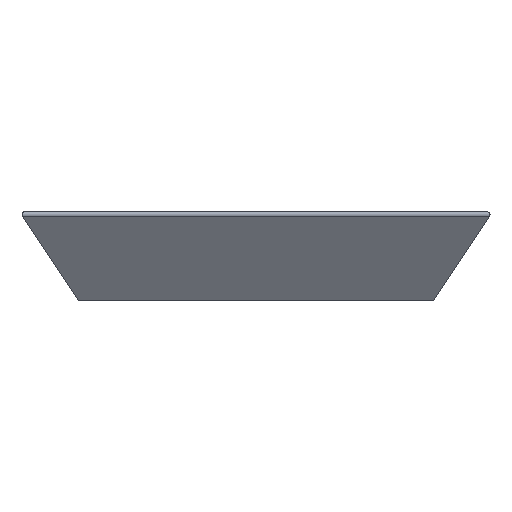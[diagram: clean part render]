
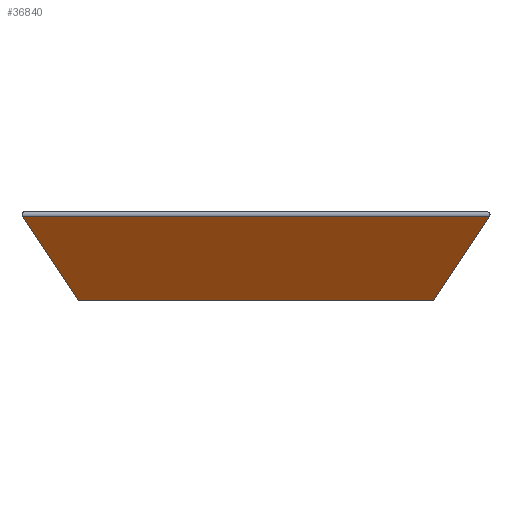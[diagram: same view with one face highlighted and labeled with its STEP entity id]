
A CAD part, front view. The second image highlights one B-rep face of the part: STEP entity #36840.
In plain terms, the highlighted planar face has unit normal (0, -0.832, -0.555).
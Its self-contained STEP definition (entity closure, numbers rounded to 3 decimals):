
#4284=FACE_OUTER_BOUND('',#6332,.T.);
#6332=EDGE_LOOP('',(#27320,#27321,#27322,#27323));
#8963=LINE('',#59970,#12288);
#8971=LINE('',#59993,#12296);
#8974=LINE('',#59999,#12299);
#8975=LINE('',#60000,#12300);
#12288=VECTOR('',#41057,10.);
#12296=VECTOR('',#41081,10.);
#12299=VECTOR('',#41086,10.);
#12300=VECTOR('',#41087,10.);
#15946=VERTEX_POINT('',#59968);
#15947=VERTEX_POINT('',#59969);
#15954=VERTEX_POINT('',#59992);
#15956=VERTEX_POINT('',#59998);
#20313=EDGE_CURVE('',#15946,#15947,#8963,.T.);
#20325=EDGE_CURVE('',#15954,#15947,#8971,.T.);
#20328=EDGE_CURVE('',#15956,#15946,#8974,.T.);
#20329=EDGE_CURVE('',#15954,#15956,#8975,.T.);
#27320=ORIENTED_EDGE('',*,*,#20313,.F.);
#27321=ORIENTED_EDGE('',*,*,#20328,.F.);
#27322=ORIENTED_EDGE('',*,*,#20329,.F.);
#27323=ORIENTED_EDGE('',*,*,#20325,.T.);
#35622=PLANE('',#38620);
#36840=ADVANCED_FACE('',(#4284),#35622,.F.);
#38620=AXIS2_PLACEMENT_3D('',#59997,#41084,#41085);
#41057=DIRECTION('',(1.,0.,0.));
#41081=DIRECTION('',(0.485,-0.485,0.728));
#41084=DIRECTION('center_axis',(0.,0.832,0.555));
#41085=DIRECTION('ref_axis',(1.,0.,0.));
#41086=DIRECTION('',(-0.485,-0.485,0.728));
#41087=DIRECTION('',(-1.,0.,0.));
#59968=CARTESIAN_POINT('',(-78.964,-78.964,28.445));
#59969=CARTESIAN_POINT('',(78.964,-78.964,28.445));
#59970=CARTESIAN_POINT('',(30.,-78.964,28.445));
#59992=CARTESIAN_POINT('',(60.,-60.,0.));
#59993=CARTESIAN_POINT('',(60.,-60.,0.));
#59997=CARTESIAN_POINT('Origin',(60.,-60.,0.));
#59998=CARTESIAN_POINT('',(-60.,-60.,0.));
#59999=CARTESIAN_POINT('',(-60.,-60.,0.));
#60000=CARTESIAN_POINT('',(60.,-60.,0.));
